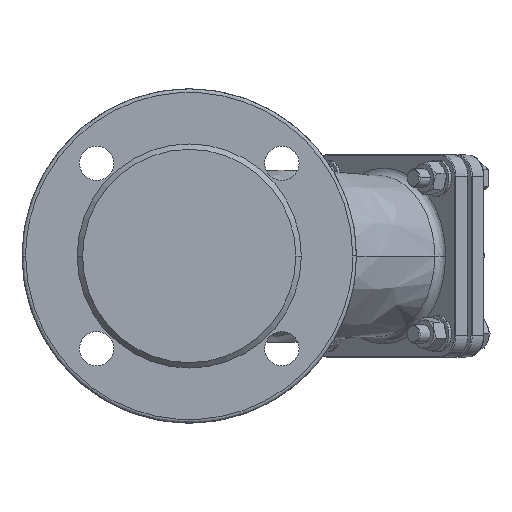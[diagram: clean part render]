
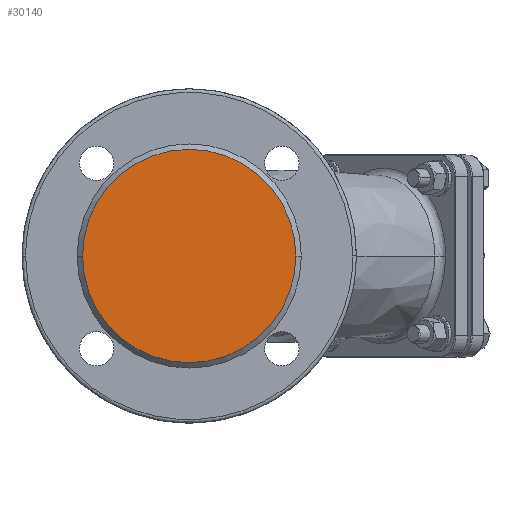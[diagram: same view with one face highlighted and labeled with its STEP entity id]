
A CAD part, left-side view. The second image highlights one B-rep face of the part: STEP entity #30140.
In plain terms, the highlighted planar face has unit normal (-1, 0, 0).
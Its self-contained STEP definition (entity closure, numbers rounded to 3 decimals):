
#1757 = FACE_OUTER_BOUND ( 'NONE', #17478, .T. ) ;
#3340 = CARTESIAN_POINT ( 'NONE',  ( 0., 0., 0. ) ) ;
#3435 = DIRECTION ( 'NONE',  ( 1., 0., 0. ) ) ;
#3507 = DIRECTION ( 'NONE',  ( 1., 0., 0. ) ) ;
#7569 = VERTEX_POINT ( 'NONE', #11527 ) ;
#8799 = AXIS2_PLACEMENT_3D ( 'NONE', #24228, #28129, #35886 ) ;
#11527 = CARTESIAN_POINT ( 'NONE',  ( 0., -59., 0. ) ) ;
#11796 = DIRECTION ( 'NONE',  ( 0., 1., 0. ) ) ;
#15436 = VERTEX_POINT ( 'NONE', #32416 ) ;
#16703 = EDGE_CURVE ( 'NONE', #15436, #7569, #36559, .T. ) ;
#17478 = EDGE_LOOP ( 'NONE', ( #18902, #40039 ) ) ;
#18902 = ORIENTED_EDGE ( 'NONE', *, *, #16703, .F. ) ;
#19149 = DIRECTION ( 'NONE',  ( 0., 1., 0. ) ) ;
#20314 = PLANE ( 'NONE',  #8799 ) ;
#24228 = CARTESIAN_POINT ( 'NONE',  ( 0., 0., 0. ) ) ;
#28129 = DIRECTION ( 'NONE',  ( 1., 0., 0. ) ) ;
#29240 = AXIS2_PLACEMENT_3D ( 'NONE', #3340, #3507, #11796 ) ;
#30140 = ADVANCED_FACE ( 'NONE', ( #1757 ), #20314, .F. ) ;
#32416 = CARTESIAN_POINT ( 'NONE',  ( 0., 59., 0. ) ) ;
#33768 = EDGE_CURVE ( 'NONE', #7569, #15436, #39265, .T. ) ;
#34065 = CARTESIAN_POINT ( 'NONE',  ( 0., 0., 0. ) ) ;
#35886 = DIRECTION ( 'NONE',  ( 0., 0., -1. ) ) ;
#36559 = CIRCLE ( 'NONE', #41995, 59. ) ;
#39265 = CIRCLE ( 'NONE', #29240, 59. ) ;
#40039 = ORIENTED_EDGE ( 'NONE', *, *, #33768, .F. ) ;
#41995 = AXIS2_PLACEMENT_3D ( 'NONE', #34065, #3435, #19149 ) ;
